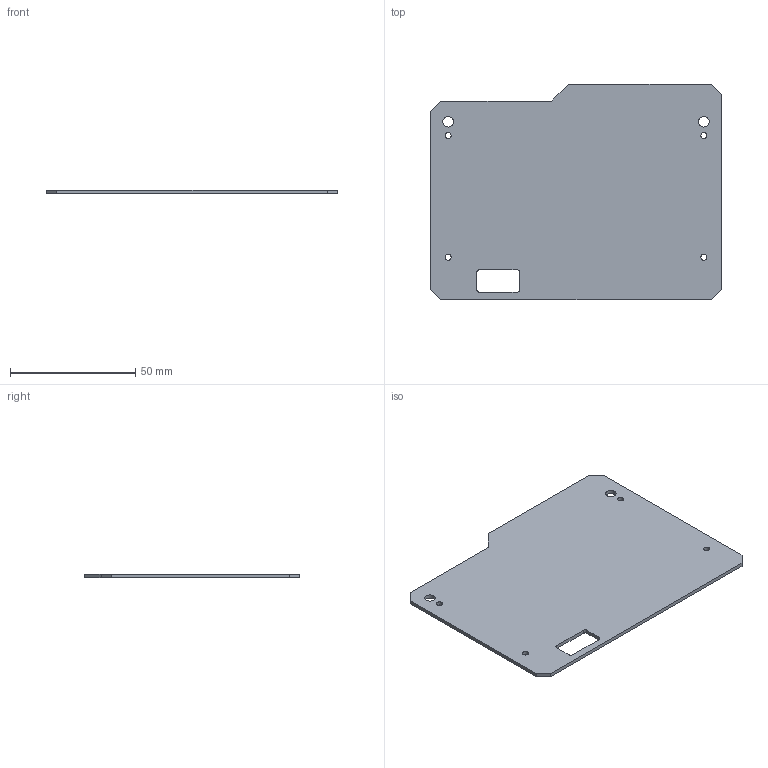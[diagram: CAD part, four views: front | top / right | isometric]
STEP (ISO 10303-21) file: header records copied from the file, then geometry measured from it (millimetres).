
FILE_DESCRIPTION(('Open CASCADE Model'),'2;1');
FILE_NAME('Clear rear plate','2026-11-12T07:10:07',('Author'),( 'Open CASCADE'),'Open CASCADE STEP processor 7.8','build123d', 'Unknown');
FILE_SCHEMA(('AUTOMOTIVE_DESIGN { 1 0 10303 214 1 1 1 1 }'));
Length unit declared in the file: millimetre
Products named in the file (1): Clear rear plate
Bounding box: 116 x 86 x 1.5 mm (x, y, z)
Volume: 14096.4 mm3; surface area: 19541.4 mm2
Topology: 1 solids, 1 shells, 26 faces, 72 edges, 48 vertices
Faces by surface type: plane 16, cylinder 10
Full cylindrical faces by diameter (mm): 2.4 x4, 4.2 x2
Entity records: 1829 total; most frequent: CARTESIAN_POINT 355, DIRECTION 266, LINE 160, VECTOR 160, ORIENTED_EDGE 144, PCURVE 144, DEFINITIONAL_REPRESENTATION 144, EDGE_CURVE 72
